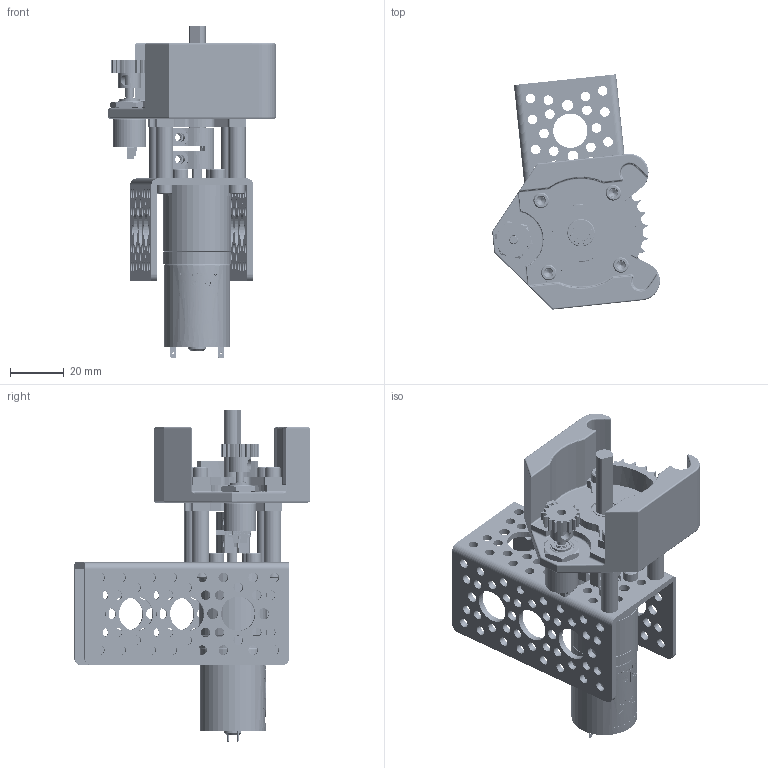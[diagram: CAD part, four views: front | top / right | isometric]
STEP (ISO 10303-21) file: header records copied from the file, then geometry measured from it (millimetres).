
FILE_DESCRIPTION (( 'STEP AP214' ), '1' );
FILE_NAME ('Corner Steering Assembly.STEP', '2018-04-03T22:56:09', ( '' ), ( '' ), 'SwSTEP 2.0', 'SolidWorks 2016', '' );
FILE_SCHEMA (( 'AUTOMOTIVE_DESIGN' ));
Length unit declared in the file: inch
Products named in the file (18): 0.25 Beaing Block; 6_32 standoff; Corner Steering Assembly; 6-32_L0_25 Spacer; .25 D Shaft; Encoder mount; 3 Aluminum Channel; 6-32_SHCS_6-32 SHCS X .250; 0.25 Bearing; 0.25 Pillow Bearing Block; Absolute Encoder_BEARING VERSION; Motor mount f; 25mm Motor; 555104 screw (M3)_92005A112; 0.125in Bore 32 Pitch Shaft Mount Pinion Gear; 4mm - 0.25in Clamping Shaft Coupler; 6-32_SHCS_6-32 SHCS X .750; 555104
Assembly tree (35 placements, depth 3):
  Corner Steering Assembly
    25mm Motor
    Motor mount f
      555104
      555104 screw (M3)_92005A112  x2
    6_32 standoff  x4
    6-32_SHCS_6-32 SHCS X .250  x8
    6-32_L0_25 Spacer  x4
    6-32_SHCS_6-32 SHCS X .750  x4
    4mm - 0.25in Clamping Shaft Coupler
    .25 D Shaft
    Encoder mount
    Absolute Encoder_BEARING VERSION
    0.25 Pillow Bearing Block  x2
      0.25 Beaing Block
      0.25 Bearing
    0.125in Bore 32 Pitch Shaft Mount Pinion Gear
    3 Aluminum Channel
Bounding box: 62.25 x 87.34 x 123.14 mm (x, y, z)
Volume: 82341.2 mm3; surface area: 55747 mm2
Topology: 47 solids, 47 shells, 3873 faces, 10481 edges, 6796 vertices
Faces by surface type: cylinder 2048, plane 1159, cone 336, bspline 240, torus 83, sphere 7
Entity records: 139187 total; most frequent: CARTESIAN_POINT 61860, ORIENTED_EDGE 13510, DIRECTION 12165, EDGE_CURVE 6755, VERTEX_POINT 4392, AXIS2_PLACEMENT_3D 4327, VECTOR 3511, LINE 3511
